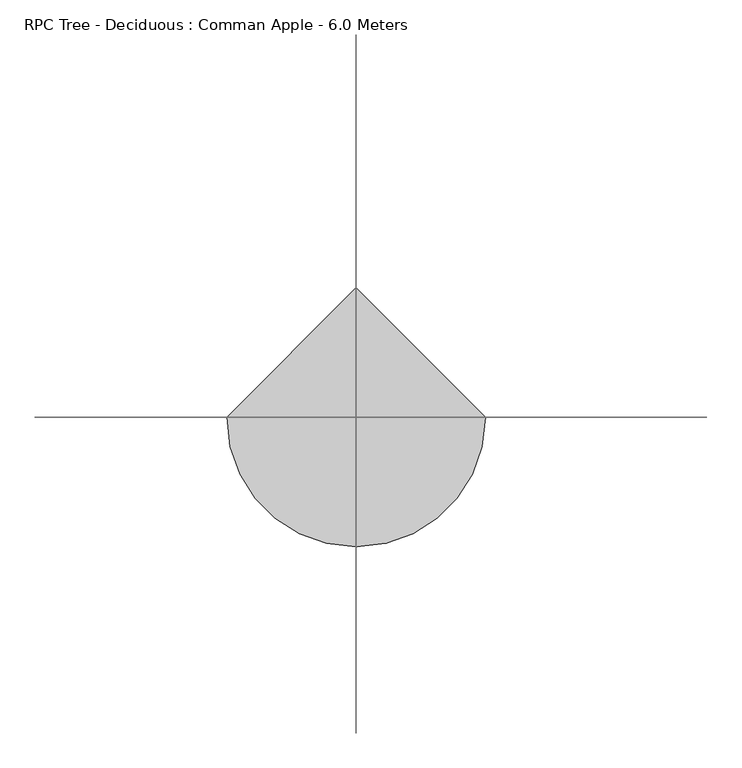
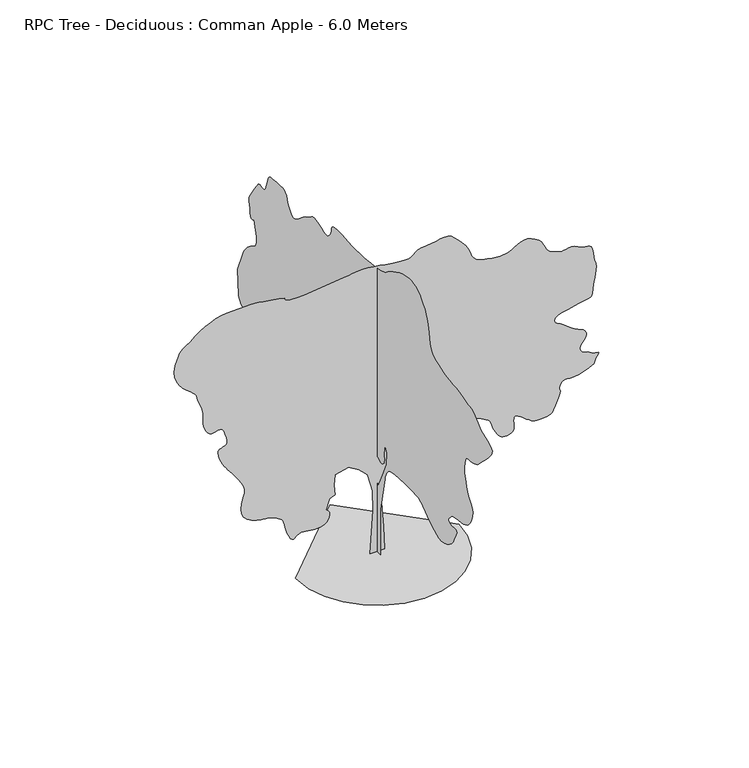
"""IFC4 building model written with IfcOpenShell, lengths in millimetres: geographic element geometry, RPC Tree - Deciduous : Comman Apple - 6.0 Meters."""

from ifc_helpers import new_model, si_unit, origin, place, context, project, spatial, triangles, source, transform, mapped, element, save


def rpc_tree_deciduous_comman_apple_6_0_meters_a7a636f8(model_context):
    return source(origin(), model_context, "Body", "Tessellation", [
        triangles([(-6.51e-05, -105.0228319, 0.0074776), (-6.15e-05, 138.9131143, 0.0074703), (-4.84e-05, 99.8833291, 458.6078719), (-3.14e-05, 129.1556067, 1014.7807915), (-1.8e-05, 226.7299288, 1414.8361691), (-8.5e-06, 392.6053236, 1649.0138809), (-1.1e-06, 577.9979682, 1805.1340027), (2.6e-06, 753.6305981, 1844.161417), (3.5e-06, 948.7807503, 1775.8613708), (1.5e-06, 1007.3257959, 1678.2863674), (-4e-06, 890.2357046, 1551.4387321), (-8.4e-06, 929.2657351, 1385.5635372), (-1.44e-05, 1153.685903, 1073.3258371), (-1.47e-05, 1543.9836639, 868.4182137), (-8.5e-06, 2109.9142365, 790.3606236), (7.6e-06, 2451.4244957, 1161.1408985), (2.53e-05, 2802.702182, 1580.7112186), (3.2e-05, 3349.1025513, 1531.9237896), (3.84e-05, 3544.2528488, 1649.0138809), (4.53e-05, 3534.5028625, 1883.1914474), (4.5e-05, 3358.8778267, 1961.2515083), (4.95e-05, 3232.0277206, 2175.9142776), (5.43e-05, 3534.5028625, 2185.6716763), (5.98e-05, 4139.453437, 2068.584201), (6.19e-05, 4208.0283211, 2104.1717091), (6.39e-05, 4273.9283684, 2140.0141434), (6.59e-05, 4334.553447, 2176.3691917), (6.78e-05, 4387.2284294, 2213.4942513), (6.96e-05, 4429.328476, 2251.6417774), (7.12e-05, 4458.2034576, 2291.0693127), (7.26e-05, 4471.2035362, 2332.0343994), (8.79e-05, 4500.4784935, 2829.6522812), (9.79e-05, 4334.6034439, 3249.2275429), (9.86e-05, 4317.5033249, 3282.3275574), (9.94e-05, 4292.2284142, 3321.5527794), (0.0001002, 4260.1033401, 3364.7027618), (0.000101, 4222.5283081, 3409.5526405), (0.0001017, 4180.8532356, 3453.9028404), (0.0001023, 4136.4533295, 3495.527916), (0.0001027, 4090.6782166, 3532.2027122), (0.0001029, 4046.5782921, 3560.9279938), (0.0001029, 4006.7531067, 3582.8278198), (0.000103, 3971.8782005, 3601.8278229), (0.0001031, 3942.6282417, 3621.8527634), (0.0001036, 3919.7031876, 3646.8529816), (0.0001043, 3903.7779968, 3680.7029503), (0.0001056, 3895.5282097, 3727.3530098), (0.0001072, 3894.4779831, 3782.2781456), (0.0001089, 3899.0529945, 3838.2279282), (0.0001108, 3908.3280098, 3895.0532387), (0.0001127, 3921.3530869, 3952.5282188), (0.0001147, 3937.2032822, 4010.528167), (0.0001167, 3954.9280724, 4068.8783844), (0.0001187, 3973.5780968, 4127.4033005), (0.0001184, 3998.5533165, 4107.2783661), (0.0001184, 4022.8532867, 4091.9531387), (0.0001185, 4045.7783409, 4086.1782005), (0.0001191, 4066.6532295, 4094.7532585), (0.0001202, 4084.8032845, 4122.4283134), (0.0001219, 4099.5532562, 4174.003363), (0.0001245, 4110.1781891, 4254.2534065), (0.000127, 4120.6784203, 4333.2285278), (0.0001287, 4132.0283089, 4385.4035408), (0.0001299, 4139.1281662, 4422.2036201), (0.0001309, 4136.8033081, 4455.0786484), (0.0001318, 4120.0031708, 4495.478508), (0.0001331, 4083.5533607, 4554.8286644), (0.0001348, 4022.3783157, 4644.5537109), (0.0001367, 3956.5782623, 4741.1289207), (0.0001382, 3906.9780922, 4815.003772), (0.0001392, 3869.5280525, 4868.5789902), (0.0001398, 3840.0781059, 4904.2041412), (0.0001401, 3814.5529198, 4924.3290756), (0.0001399, 3788.8780334, 4931.3042313), (0.0001393, 3758.9281174, 4927.5038818), (0.0001386, 3727.67799, 4918.0288788), (0.0001379, 3700.2029228, 4909.0788437), (0.0001374, 3675.45298, 4904.7291092), (0.0001372, 3652.4029335, 4909.0788437), (0.0001374, 3630.0528442, 4926.2289597), (0.000138, 3607.3527763, 4960.2792068), (0.0001393, 3583.2777924, 5015.3287537), (0.0001409, 3562.2279144, 5079.6288986), (0.0001424, 3546.3027237, 5137.7538391), (0.0001437, 3531.0527824, 5188.4042358), (0.0001447, 3512.0527794, 5230.1540131), (0.0001452, 3484.8526955, 5261.6794144), (0.0001452, 3445.0278008, 5281.604361), (0.0001446, 3388.1277855, 5288.5295197), (0.0001436, 3319.3276245, 5291.5793335), (0.0001428, 3248.6275795, 5298.5544891), (0.000142, 3178.9774704, 5306.2040222), (0.0001411, 3113.2274139, 5311.3042923), (0.0001402, 3054.3025223, 5310.5793365), (0.0001392, 3005.1273262, 5300.8293503), (0.000138, 2968.5772316, 5278.778952), (0.0001369, 2944.7272339, 5253.1543533), (0.0001361, 2929.602285, 5232.6294434), (0.0001354, 2919.9272942, 5214.0044174), (0.0001347, 2912.4774582, 5194.003894), (0.0001338, 2904.0023941, 5169.4042328), (0.0001326, 2891.2523003, 5136.9288895), (0.000131, 2871.0023735, 5093.3792221), (0.0001292, 2844.6522377, 5045.379245), (0.0001275, 2815.5772682, 5003.1539154), (0.000126, 2783.4271957, 4968.9542587), (0.0001248, 2747.8773308, 4945.0039764), (0.0001238, 2708.5521149, 4933.504097), (0.0001233, 2665.1521477, 4936.7039017), (0.0001232, 2617.3021614, 4956.7788391), (0.0001234, 2569.6771614, 4988.2542435), (0.0001238, 2525.4769524, 5023.3038483), (0.0001243, 2482.1194244, 5060.7288895), (0.0001247, 2437.0593842, 5099.3538574), (0.0001252, 2387.7318718, 5138.0038239), (0.0001254, 2331.5768692, 5175.4288651), (0.0001255, 2266.0343582, 5210.4790512), (0.0001256, 2205.0142456, 5244.5542969), (0.0001259, 2159.0142918, 5277.6040237), (0.0001262, 2120.3541515, 5306.2290207), (0.0001262, 2081.3542065, 5327.0044968), (0.0001258, 2034.3291698, 5336.5044983), (0.0001247, 1971.6040741, 5331.3292328), (0.0001227, 1885.4940685, 5308.0544907), (0.0001205, 1797.391452, 5276.8540695), (0.0001188, 1730.2863911, 5251.9544266), (0.0001175, 1678.8813892, 5236.1042313), (0.0001168, 1637.8888332, 5232.0288986), (0.0001166, 1602.0163136, 5242.4794235), (0.0001169, 1565.9737461, 5270.1544785), (0.0001177, 1524.4687214, 5317.8044769), (0.0001188, 1490.9861721, 5373.8045471), (0.0001201, 1475.2561729, 5423.9793915), (0.0001212, 1466.3511932, 5467.3296524), (0.0001221, 1453.3511147, 5502.8292297), (0.0001225, 1425.3286972, 5529.4543488), (0.0001222, 1371.366148, 5546.1794907), (0.000121, 1280.5334656, 5551.979718), (0.0001195, 1182.4759335, 5550.8792038), (0.0001183, 1108.9958982, 5547.8793869), (0.0001174, 1052.4133781, 5543.5296524), (0.0001165, 1005.0483187, 5538.3293884), (0.0001156, 959.220738, 5532.7791458), (0.0001147, 907.2482563, 5527.4044739), (0.0001136, 841.4482029, 5522.7041794), (0.0001125, 772.3506037, 5519.7043625), (0.0001115, 711.6155754, 5518.9044113), (0.0001107, 653.2705175, 5520.154335), (0.0001099, 591.3404677, 5523.2791443), (0.000109, 519.8504273, 5528.1294296), (0.0001078, 432.8303392, 5534.5046219), (0.0001065, 324.3052774, 5542.2291504), (0.000105, 203.687658, 5552.8796631), (0.0001037, 86.9965703, 5567.6043457), (0.0001026, -21.8426915, 5585.7544006), (0.0001018, -118.9050968, 5606.6292892), (0.0001012, -200.2644113, 5629.5546341), (0.0001011, -261.9952181, 5653.8543137), (0.0001012, -300.1702317, 5678.8295334), (0.0001016, -342.4727732, 5713.0297714), (0.000102, -413.9603428, 5761.2297363), (0.0001023, -506.7854181, 5817.0798157), (0.0001024, -613.0929554, 5874.3298096), (0.0001023, -725.0330704, 5926.6045258), (0.0001019, -834.75319, 5967.6299286), (0.0001011, -934.4057556, 5991.07966), (0.0001, -1022.9033335, 5999.8047089), (9.88e-05, -1104.7484104, 6000.0046967), (9.74e-05, -1180.4459702, 5990.3047073), (9.57e-05, -1250.5110249, 5969.3298248), (9.38e-05, -1315.4560432, 5935.7295502), (9.14e-05, -1375.7936394, 5888.1545471), (8.87e-05, -1432.0336658, 5825.2049011), (8.63e-05, -1478.7161362, 5768.8048553), (8.48e-05, -1512.7687088, 5733.7546692), (8.36e-05, -1538.2837212, 5707.9295013), (8.25e-05, -1559.3636845, 5679.2045105), (8.09e-05, -1580.1012268, 5635.454274), (7.84e-05, -1604.5962433, 5564.5545319), (7.46e-05, -1636.941362, 5454.4042786), (7.05e-05, -1667.1512913, 5330.3292938), (6.7e-05, -1688.656374, 5223.97939), (6.39e-05, -1710.6739254, 5132.8541382), (6.11e-05, -1742.4214062, 5054.3292801), (5.83e-05, -1793.1164223, 4985.8788071), (5.53e-05, -1871.9714928, 4924.9540375), (5.19e-05, -1988.2065491, 4868.9789658), (4.87e-05, -2119.0091755, 4825.5040031), (4.62e-05, -2237.6917568, 4799.6038399), (4.41e-05, -2347.6668755, 4784.9788605), (4.22e-05, -2452.3543808, 4775.3288681), (4.04e-05, -2555.1521759, 4764.2786705), (3.83e-05, -2659.5022018, 4745.5539413), (3.57e-05, -2768.8022163, 4712.8539024), (3.33e-05, -2866.4523605, 4683.5786545), (3.19e-05, -2939.5522591, 4672.2287659), (3.09e-05, -2996.927536, 4668.05373), (2.99e-05, -3047.4773575, 4660.2786232), (2.85e-05, -3100.0773445, 4638.1788094), (2.61e-05, -3163.6025368, 4590.9787834), (2.24e-05, -3246.9276833, 4507.9536186), (1.83e-05, -3354.9527756, 4422.0536293), (1.48e-05, -3474.4277504, 4364.503363), (1.18e-05, -3586.9278603, 4321.8033531), (9.3e-06, -3673.9780701, 4280.47855), (7e-06, -3717.153051, 4227.0283241), (5e-06, -3698.0280556, 4147.9782074), (2.9e-06, -3598.177755, 4029.8281517), (1.1e-06, -3473.4528099, 3906.2781349), (-3e-07, -3385.2276718, 3815.6781418), (-1.3e-06, -3323.4776619, 3751.5279877), (-1.9e-06, -3278.1025246, 3707.3530678), (-2.2e-06, -3239.0275841, 3676.6529068), (-2.3e-06, -3196.2275803, 3652.9528999), (-2.1e-06, -3139.5775497, 3629.777861), (-1.7e-06, -3075.1774109, 3613.37799), (-9e-07, -3016.2275208, 3608.6029907), (-2e-07, -2963.4272552, 3606.7278145), (2e-07, -2917.4774437, 3599.0529922), (2e-07, -2879.0021759, 3576.8528938), (-7e-07, -2848.7272797, 3531.452758), (-2.7e-06, -2827.3521309, 3454.1278267), (-5.1e-06, -2815.7522575, 3369.9277336), (-7e-06, -2813.3521133, 3305.0276253), (-8.6e-06, -2818.6523712, 3252.4026398), (-1.02e-05, -2830.0772552, 3205.052623), (-1.19e-05, -2846.1271477, 3156.0024193), (-1.39e-05, -2865.2274353, 3098.2524559), (-1.64e-05, -2885.9023361, 3024.8022881), (-1.92e-05, -2914.627327, 2946.6774055), (-2.18e-05, -2954.4522217, 2877.5772629), (-2.43e-05, -2998.5524368, 2814.6273262), (-2.67e-05, -3040.0775185, 2754.9021927), (-2.9e-05, -3072.2275909, 2695.5270378), (-3.11e-05, -3088.152491, 2633.6020386), (-3.3e-05, -3081.052343, 2566.2020828), (-3.46e-05, -3060.4274391, 2500.277037), (-3.6e-05, -3039.1022873, 2443.7194427), (-3.71e-05, -3015.2522896, 2395.18694), (-3.79e-05, -2986.9272743, 2353.3118797), (-3.85e-05, -2952.3273514, 2316.7293743), (-3.88e-05, -2909.5023491, 2284.0717747), (-3.89e-05, -2856.6273788, 2253.9743385), (-3.87e-05, -2791.7272705, 2230.5618141), (-3.8e-05, -2717.452153, 2216.0268002), (-3.71e-05, -2638.7520149, 2206.0967377), (-3.62e-05, -2560.5271385, 2196.5117123), (-3.56e-05, -2487.799601, 2182.9993103), (-3.53e-05, -2425.47201, 2161.2942398), (-3.56e-05, -2378.5043827, 2127.129174), (-3.62e-05, -2345.7043499, 2089.8041267), (-3.68e-05, -2322.8042942, 2060.3341232), (-3.73e-05, -2310.1443111, 2037.0066227), (-3.78e-05, -2308.0692924, 2018.1191128), (-3.84e-05, -2316.9168629, 2001.9616688), (-3.92e-05, -2337.029298, 1986.8265461), (-4.01e-05, -2368.7468388, 1971.0090523), (-4.1e-05, -2411.2468609, 1962.5040482), (-4.16e-05, -2459.0394379, 1965.0915356), (-4.21e-05, -2505.4770103, 1970.754126), (-4.27e-05, -2543.876992, 1971.4641117), (-4.34e-05, -2567.6019974, 1959.2041042), (-4.44e-05, -2569.9771431, 1925.949012), (-4.59e-05, -2544.3769615, 1863.6765049), (-4.75e-05, -2509.7520401, 1792.5014889), (-4.89e-05, -2484.8695473, 1735.1513557), (-4.99e-05, -2462.7095627, 1687.5312973), (-5.08e-05, -2436.2819607, 1645.5437439), (-5.14e-05, -2398.5893486, 1605.0912712), (-5.19e-05, -2342.631863, 1562.0787804), (-5.22e-05, -2261.4142914, 1512.4087017), (-5.2e-05, -2169.1316975, 1473.3237328), (-5.1e-05, -2083.5066914, 1461.3762062), (-4.95e-05, -2002.8290577, 1471.4462311), (-4.76e-05, -1925.3965748, 1498.4137711), (-4.53e-05, -1849.4990273, 1537.1587898), (-4.28e-05, -1773.4289612, 1582.5612511), (-4.02e-05, -1695.4838642, 1629.498793), (-3.77e-05, -1622.0062271, 1676.8063705), (-3.54e-05, -1558.0836754, 1724.7963192), (-3.31e-05, -1500.136195, 1770.5689613), (-3.11e-05, -1444.578685, 1811.2214218), (-2.93e-05, -1387.8260445, 1843.8489361), (-2.77e-05, -1326.2960793, 1865.5564774), (-2.64e-05, -1256.4010723, 1873.4340488), (-2.5e-05, -1159.1384045, 1874.2889385), (-2.3e-05, -1027.910804, 1875.4840691), (-2.07e-05, -877.7382116, 1874.971455), (-1.86e-05, -723.6380974, 1870.7039829), (-1.67e-05, -580.6329818, 1860.6339581), (-1.55e-05, -463.7428782, 1842.7115055), (-1.52e-05, -387.9878002, 1814.8914013), (-1.57e-05, -343.2127716, 1776.8839828), (-1.66e-05, -308.1652379, 1730.6863667), (-1.77e-05, -281.2252217, 1677.6614056), (-1.92e-05, -260.7727092, 1619.1738419), (-2.08e-05, -245.1829449, 1556.5887085), (-2.26e-05, -232.8366782, 1491.2736546), (-2.44e-05, -222.1121693, 1424.5935677), (-3.85e-05, -114.7803395, 897.6907001), (-2.01e-05, -26.9632706, 1297.7460777), (-1.3e-05, -173.3248856, 1609.9838505), (-6.5e-06, -300.1727388, 1892.9489914), (2e-07, -319.6852469, 2127.129174), (4.7e-06, -251.3852008, 2244.2167946), (-4e-07, -222.1119331, 2058.8266571), (-1.7e-06, -228.0859325, 2017.1790539), (-3e-06, -232.2679447, 1976.5565334), (-4.1e-06, -232.865183, 1937.9815624), (-5.1e-06, -228.0859325, 1902.4790783), (-5.9e-06, -216.1379155, 1871.0740185), (-6.4e-06, -195.2293988, 1844.788995), (-6.5e-06, -163.5673779, 1824.6489452), (-6.1e-06, -127.1833524, 1819.4714996), (-5.2e-06, -93.5303284, 1831.0189053), (-4.2e-06, -62.949051, 1849.7389835), (-3.3e-06, -35.7820297, 1866.0664753), (-2.9e-06, -12.3698845, 1870.4490566), (-3.1e-06, 6.9458055, 1853.3239391), (-4.3e-06, 21.8237678, 1805.1340027), (-6.1e-06, 32.3777748, 1741.0688725), (-7.7e-06, 39.3472803, 1682.1263947), (-9.3e-06, 43.330036, 1627.4512436), (-1.08e-05, 44.9230347, 1576.1888203), (-1.22e-05, 44.724037, 1527.4862698), (-1.37e-05, 43.330036, 1480.4911732), (-1.51e-05, 41.3385332, 1434.3511116), (137.391859, 0.0003253, 0.0), (-133.3141101, 0.0003334, 0.0), (-73.1573078, 0.0002372, 832.1731876), (-83.1833128, 0.0002433, 1223.1935062), (-183.4456522, 0.0001982, 1574.1087147), (-333.8377625, 0.0002049, 1724.5014244), (-534.3604428, 0.0002126, 1844.8164642), (-785.015601, 0.0002192, 1784.6589443), (-805.0681561, 0.0002168, 1584.1363003), (-785.015601, 0.0002134, 1393.6386257), (-885.278231, 0.0002156, 1343.5060753), (-955.4607931, 0.0002149, 1153.0084007), (-936.3432827, 0.0002675, 1139.8859459), (-918.5407356, 0.0002668, 1125.3558735), (-903.3707314, 0.0002661, 1108.0233559), (-892.1456898, 0.0002654, 1086.4808481), (-886.1831903, 0.0002648, 1059.3258196), (-886.7981964, 0.0002643, 1025.1533415), (-895.3032005, 0.0002639, 982.565752), (-913.9532249, 0.0002639, 940.0632591), (-942.5982788, 0.0002642, 906.5057144), (-978.963283, 0.0002649, 881.0181713), (-1020.7633478, 0.0002659, 862.7181982), (-1065.71838, 0.0002671, 850.7331739), (-1111.553373, 0.0002683, 844.1856812), (-1155.9834372, 0.0002696, 842.1981571), (-1199.4784567, 0.000271, 844.8881819), (-1243.6759769, 0.0002724, 851.4356747), (-1288.0485592, 0.0002738, 859.5631582), (-1332.0685467, 0.0002752, 866.9856703), (-1375.2135876, 0.0002766, 871.4282043), (-1416.9560978, 0.0002778, 870.610667), (-1456.7686386, 0.0002789, 862.2507122), (-1490.9986713, 0.0002796, 844.3906832), (-1518.2137253, 0.0002801, 821.2681847), (-1541.2187164, 0.0002805, 799.9006662), (-1562.8187061, 0.0002809, 787.3031067), (-1585.8236973, 0.0002817, 790.4881594), (-1613.0387512, 0.0002829, 816.475672), (-1647.2663132, 0.0002313, 872.2782251), (-1679.7413658, 0.0002334, 944.3882858), (-1702.0463997, 0.0002351, 1013.3457773), (-1717.508828, 0.0002365, 1077.2133905), (-1729.4639122, 0.0002377, 1134.0684231), (-1741.2438618, 0.0002387, 1181.9784348), (-1756.1814674, 0.0002397, 1219.0134562), (-1777.6064678, 0.0002407, 1243.2460613), (-1804.2939377, 0.0002418, 1262.5659576), (-1833.963929, 0.000243, 1284.8709915), (-1868.368951, 0.0002444, 1308.2261066), (-1909.2639839, 0.000246, 1330.7035137), (-1958.3990662, 0.0002477, 1350.3761501), (-2017.5341194, 0.0002497, 1365.3136105), (-2088.4191822, 0.0002519, 1373.5860706), (-2170.7616852, 0.0002011, 1382.5010788), (-2258.5417923, 0.000204, 1401.9385551), (-2344.9193687, 0.0002071, 1433.8310852), (-2423.054425, 0.0002101, 1480.1036968), (-2486.1043556, 0.0002129, 1542.6862141), (-2527.2271362, 0.0002153, 1623.5087517), (-2539.6019623, 0.0002172, 1724.5014244), (-2528.5270569, 0.0002183, 1822.2489464), (-2508.6771057, 0.0002189, 1897.5490013), (-2487.2420769, 0.0002192, 1958.6416386), (-2471.4293793, 0.0001661, 2013.7690876), (-2468.4170631, 0.0001669, 2071.1791008), (-2485.3994568, 0.0001684, 2139.1117275), (-2529.5769928, 0.000171, 2225.8093426), (-2588.3771828, 0.0001741, 2318.6767845), (-2644.0269836, 0.000177, 2400.3194756), (-2695.8270195, 0.0001796, 2471.7869156), (-2743.0773331, 0.000182, 2534.1270058), (-2785.0520966, 0.0001306, 2588.4271797), (-2821.0522247, 0.0001324, 2635.6772026), (-2850.4021774, 0.0001339, 2676.9770073), (-2878.5522034, 0.0001354, 2723.8270546), (-2908.6274025, 0.0001372, 2782.7522369), (-2936.4274498, 0.000139, 2847.4523575), (-2957.7523109, 0.0001406, 2911.6522179), (-2968.3522453, 0.0001418, 2969.0024963), (-2964.0525078, 0.0001423, 3013.2024147), (-2940.6524826, 0.000142, 3037.927359), (-2905.0023331, 0.0001411, 3050.052491), (-2869.2021927, 0.0001402, 3062.5523094), (-2836.72714, 0.0001395, 3078.1775185), (-2811.1022507, 0.000139, 3099.7773628), (-2795.8023125, 0.000139, 3130.1525436), (-2794.3771088, 0.0001396, 3172.1025993), (-2810.3022995, 0.0001409, 3228.4276497), (-2831.7271545, 8.9e-05, 3286.3526024), (-2846.6774048, 9.02e-05, 3332.2027107), (-2858.4522675, 9.1e-05, 3367.3276016), (-2870.4024101, 9.18e-05, 3393.1777679), (-2885.8523392, 9.25e-05, 3411.1278351), (-2908.17743, 9.33e-05, 3422.5777176), (-2940.6524826, 9.44e-05, 3428.9526192), (-2978.7524826, 9.55e-05, 3427.0527351), (-3016.0025345, 9.65e-05, 3417.4277412), (-3052.7023293, 9.74e-05, 3407.1277885), (-3089.2524239, 9.85e-05, 3403.1027435), (-3125.9775078, 9.97e-05, 3412.4277557), (-3163.2025612, 0.0001012, 3442.1026886), (-3201.3275597, 0.0001032, 3499.1276962), (-3229.5025841, 0.0001051, 3569.6277534), (-3241.3777313, 0.0001065, 3637.1529922), (-3243.9525742, 0.0001076, 3704.8529297), (-3244.2275574, 0.0001086, 3775.9029533), (-3249.2525414, 5.65e-05, 3853.4031647), (-3266.0276802, 5.83e-05, 3940.5780762), (-3301.5775452, 6.09e-05, 4040.5533691), (-3337.877655, 6.33e-05, 4130.928376), (-3357.5276184, 6.48e-05, 4192.7283829), (-3368.4028267, 6.58e-05, 4234.1784691), (-3378.4027977, 6.65e-05, 4263.5284218), (-3395.4276306, 6.74e-05, 4289.0033203), (-3427.3277184, 6.88e-05, 4318.8785316), (-3482.0528664, 7.1e-05, 4361.3785538), (-3552.8529053, 2.06e-05, 4417.8785934), (-3623.6529442, 2.37e-05, 4484.3786041), (-3688.3030678, 2.68e-05, 4561.0535751), (-3740.6780685, 2.96e-05, 4648.0787865), (-3774.6530296, 3.21e-05, 4745.6289368), (-3784.0780357, 3.4e-05, 4853.8540169), (-3762.7778824, 3.51e-05, 4972.9790131), (-3729.8778557, -1.77e-05, 5076.7040771), (-3704.502951, -1.74e-05, 5145.8539261), (-3680.7029503, -1.74e-05, 5191.3290573), (-3652.5279259, -1.78e-05, 5224.0043884), (-3614.0029518, -1.85e-05, 5254.7792542), (-3559.1778099, -1.95e-05, 5294.454158), (-3482.0528664, -2.09e-05, 5353.9790131), (-3391.1775993, -2.26e-05, 5424.8793365), (-3298.9027084, -2.44e-05, 5490.3794083), (-3205.0276245, -2.63e-05, 5548.6543396), (-3109.4273552, -2.84e-05, 5598.0042343), (-3011.8774956, -3.07e-05, 5636.6297836), (-2912.2274734, -3.33e-05, 5662.8293472), (-2810.3022995, -3.62e-05, 5674.8047791), (-2339.0719059, -5.01e-05, 5684.8297485), (-2273.3618179, -5.21e-05, 5682.2043274), (-2197.6542297, -5.44e-05, 5674.854776), (-2113.614156, -3.7e-06, 5663.5293045), (-2022.9115528, -6.6e-06, 5649.0546066), (-1927.2115803, -9.7e-06, 5632.2294708), (-1828.1764915, -1.3e-05, 5613.8044327), (-1727.4763882, -1.63e-05, 5594.6044418), (-1724.3188774, -1.66e-05, 5575.4544479), (-1715.1112999, -1.72e-05, 5557.4543839), (-1693.8014088, -1.8e-05, 5541.7291809), (-1654.3413174, -1.94e-05, 5529.4293503), (-1590.6763081, -2.14e-05, 5521.6792419), (-1496.7561687, -2.42e-05, 5519.6293671), (-1366.5335941, -2.81e-05, 5524.4296555), (-604.5454757, -4.94e-05, 5614.6543808), (-529.8304141, -5.15e-05, 5621.554541), (-464.7628741, 1e-07, 5631.7794983), (-403.0278342, -1.6e-06, 5642.554422), (-338.3102729, -3.4e-06, 5651.0294861), (-264.297712, -5.6e-06, 5654.4042801), (-174.6758932, -8.3e-06, 5649.9045547), (-63.1312982, -1.19e-05, 5634.7043198), (53.8502923, -1.57e-05, 5614.4793915), (156.9766284, -1.9e-05, 5596.879303), (248.3524462, -2.19e-05, 5582.1046234), (330.0827591, -2.45e-05, 5570.2791824), (404.2703093, -2.69e-05, 5561.6297104), (473.0203643, -2.9e-05, 5556.304454), (538.4379192, -3.1e-05, 5554.5045639), (593.7429737, -3.25e-05, 5562.8296371), (635.895488, -3.35e-05, 5584.3044891), (672.6080727, -3.41e-05, 5613.6794403), (711.6030762, -3.48e-05, 5645.7042297), (760.5931091, -3.58e-05, 5675.0797623), (827.2981945, -3.75e-05, 5696.5546143), (919.4332684, -4.01e-05, 5704.904686), (1019.3733164, -4.3e-05, 5711.6048584), (1106.3358862, -4.54e-05, 5726.7545151), (1183.3009558, -4.74e-05, 5742.7796997), (1253.2485031, -4.94e-05, 5752.1297104), (1319.1659912, -5.14e-05, 5747.279425), (1384.0286018, -5.37e-05, 5720.6793045), (1450.8211819, -3.2e-06, 5664.7798096), (1514.7787605, -6.1e-06, 5597.4042709), (1569.6162563, -8.6e-06, 5539.5043167), (1616.0337719, -1.07e-05, 5488.254538), (1654.7363514, -1.26e-05, 5440.8795227), (1686.421336, -1.42e-05, 5394.5544434), (1711.7939152, -1.57e-05, 5346.4544724), (1731.5539009, -1.7e-05, 5293.8291962), (1749.3263626, -1.84e-05, 5241.0039322), (1770.606459, -1.97e-05, 5194.1538849), (1798.9013889, -2.12e-05, 5153.0790665), (1837.7189323, 3.06e-05, 5117.6039063), (1890.5690495, 2.85e-05, 5087.6039932), (1960.9566135, 2.61e-05, 5062.8287613), (2052.3915848, 2.3e-05, 5043.1537994), (2147.2741653, 2e-05, 5028.9540848), (2227.0742363, 1.75e-05, 5020.3540283), (2293.8969017, 1.55e-05, 5016.8542419), (2349.8443588, 1.38e-05, 5017.9041779), (2397.0244732, 1.25e-05, 5023.0038666), (2437.5369713, 1.14e-05, 5031.5789246), (2473.4920441, 1.05e-05, 5043.1537994), (2512.0269012, 9.7e-06, 5063.479303), (2558.2519867, 8.7e-06, 5093.9791855), (2611.3522339, 7.6e-06, 5127.6038773), (2670.3771194, 6.3e-06, 5157.4043839), (2734.5272736, 4.7e-06, 5176.304393), (2802.8521729, 2.7e-06, 5177.3293304), (2874.5271584, 2e-07, 5153.4540436), (2937.3023964, -2.2e-06, 5120.2293274), (2982.5272522, -3.9e-06, 5095.0541199), (3014.7523201, -5.2e-06, 5073.7292587), (3038.5773193, -6.2e-06, 5052.0788361), (3058.5525536, -7.2e-06, 5025.854274), (3079.2024559, -8.3e-06, 4990.8790833), (3105.1276176, -9.8e-06, 4942.9041046), (3132.7273865, 4.2e-05, 4892.8036743), (3157.7026062, 4.07e-05, 4852.7037964), (3183.5274834, 3.94e-05, 4820.3037392), (3213.7526733, 3.81e-05, 4793.3539307), (3251.8776718, 3.66e-05, 4769.5539299), (3301.4025558, 3.48e-05, 4746.6538742), (3365.8276932, 3.25e-05, 4722.3289055), (3431.1277771, 3.03e-05, 4707.5036476), (3484.3277275, 2.88e-05, 4709.3538254), (3530.502816, 2.76e-05, 4719.9537598), (3574.7527313, 2.64e-05, 4731.4539299), (3622.1780342, 2.51e-05, 4735.9286568), (3677.8278351, 2.33e-05, 4725.4787132), (3746.8029854, 2.07e-05, 4692.2537064), (3818.1279922, 1.81e-05, 4658.4537346), (3877.8781242, 1.61e-05, 4644.1287369), (3926.7530479, 1.45e-05, 4638.053817), (3965.453302, 1.32e-05, 4629.003788), (3994.7032608, 1.2e-05, 4605.7287552), (4015.1531754, 6.41e-05, 4557.0285301), (4027.5532906, 6.24e-05, 4471.6785072), (4039.2031609, 6.08e-05, 4384.4785973), (4054.5533867, 5.95e-05, 4327.8035683), (4069.9033218, 5.84e-05, 4286.7284592), (4081.5781906, 5.75e-05, 4246.3533073), (4085.8532204, 5.65e-05, 4191.7784409), (4079.1033417, 5.55e-05, 4108.1033157), (4057.628199, 5.42e-05, 3980.3782631), (4035.5280945, 0.0001063, 3847.1779633), (4024.4781876, 0.0001052, 3752.0279572), (4017.103347, 0.0001045, 3687.5778214), (4006.0531494, 0.0001042, 3646.453006), (3983.9530449, 0.0001045, 3621.2777985), (3943.4531914, 0.0001054, 3604.7279366), (3877.1531685, 0.0001072, 3589.3780014), (3783.9280449, 0.0001097, 3571.4279343), (3675.2779907, 0.0001126, 3551.3777046), (3562.7778809, 0.0001156, 3528.3279488), (3457.9778824, 0.0001183, 3501.452845), (3372.477578, 0.0001204, 3469.8277405), (3317.8527145, 0.0001215, 3432.5776886), (3305.6525871, 0.0001212, 3388.8527412), (3318.4276794, 0.0001203, 3351.9776665), (3332.9526649, 0.0001195, 3330.9027901), (3352.2276512, 0.0001188, 3318.0777008), (3379.2027489, 0.0001178, 3305.9525688), (3416.8777748, 0.0001164, 3286.9775642), (3468.2528366, 0.0001143, 3253.627565), (3536.2527557, 0.0001115, 3198.3524506), (3611.5028137, 0.0001084, 3139.7525391), (3681.477903, 0.0001057, 3097.8024834), (3744.6281181, 0.0001033, 3067.0773239), (3799.3529755, 0.0001547, 3042.1273933), (3844.053154, 0.000153, 3017.5524399), (3877.2031654, 0.0001516, 2987.877507), (3897.2031075, 0.0001504, 2947.702343), (3897.9280632, 0.0001497, 2900.4773186), (3879.7280113, 0.0001495, 2853.6272713), (3850.6530418, 0.0001497, 2807.4771812), (3818.7529541, 0.00015, 2762.3773178), (3792.1281258, 0.0001501, 2718.6770782), (3778.8280655, 0.0001499, 2676.7270226), (3786.9281525, 0.0001491, 2636.8771294), (3809.6279297, 0.0001479, 2605.4770111), (3834.8031372, 0.0001469, 2585.8520462), (3862.4281952, 0.0001459, 2573.7522034), (3892.5031036, 0.0001448, 2564.9771576), (3925.0281532, 0.0001437, 2555.3271652), (3960.0280518, 0.0001425, 2540.6019012), (3997.4780914, 0.000141, 2516.5769142), (4036.1783455, 0.0001395, 2494.674472), (4072.603157, 0.0001383, 2485.0593613), (4103.2283226, 0.0001373, 2481.5793411), (4124.5531837, 0.0001366, 2478.1019371), (4133.1032433, 0.0001362, 2468.4845009), (4125.3284271, 0.0001895, 2446.5919418), (4097.7283676, 0.0001897, 2406.2819023), (4070.2033035, 0.0001899, 2361.9969601), (4057.9281807, 0.0001898, 2329.461882), (4050.3783508, 0.0001896, 2304.4693668), (4037.0532921, 0.0001897, 2282.8093517), (4007.403067, 0.0001903, 2260.2742447), (3950.9280258, 0.0001915, 2232.649332), (3857.1032295, 0.0001938, 2195.731818), (3751.1030136, 0.0001965, 2165.9741867), (3663.5278358, 0.000199, 2156.5616798), (3591.9278458, 0.0002011, 2158.3742146), (3533.8029053, 0.0002029, 2162.291708), (3486.7528702, 0.0002043, 2159.1942226), (3448.2778931, 0.0002051, 2139.9592049), (3415.9528313, 0.0002054, 2095.4691879), (3396.9028313, 0.0002053, 2048.9641777), (3394.8526657, 0.000205, 2022.9766651), (3402.2777939, 0.0002045, 2007.3391022), (3411.6278046, 0.000204, 1991.8765285), (3415.3778664, 0.0002035, 1966.4166), (3405.9528603, 0.0002031, 1920.7865364), (3375.8526627, 0.0002029, 1844.8164642), (3339.8025375, 0.0002027, 1759.2289558), (3313.4026955, 0.0002024, 1690.476321), (3290.3526489, 0.0002023, 1636.9838013), (3264.3024948, 0.0002025, 1597.1712605), (3228.9526176, 0.0002032, 1569.4613239), (3178.0025299, 0.0002044, 1552.2737103), (3105.1276176, 0.0002065, 1544.0311901), (3032.1274223, 0.0002086, 1540.6111954), (2980.1523972, 0.0002101, 1539.996262), (2942.0273987, 0.0002113, 1543.7687061), (2910.5772835, 0.0002124, 1553.5012516), (2878.6022003, 0.0002136, 1570.7762146), (2838.902298, 0.0002152, 1597.1712605), (2784.3021423, 0.0002174, 1634.2663799), (2725.2272598, 0.0002198, 1675.6263554), (2676.327047, 0.0002218, 1712.2539162), (2636.7271385, 0.0002234, 1741.8638821), (2605.5270081, 0.0002246, 1762.1813919), (2581.8769981, 0.0002254, 1770.9214108), (2564.9021622, 0.0002259, 1765.8038452), (2553.7019737, 0.0002259, 1744.5538342), (2547.3770691, 0.0002257, 1717.2514309), (2544.9269279, 0.0002254, 1694.3364052), (2545.2769066, 0.0002251, 1674.0488354), (2547.3770691, 0.0002247, 1654.6388283), (2550.2018967, 0.0002244, 1634.3538746), (2552.6520378, 0.0002239, 1611.4362328), (2553.7019737, 0.0002235, 1584.1363003), (2552.2770607, 0.0002231, 1554.2312943), (2547.1520828, 0.0002228, 1525.3811657), (2537.1271133, 0.0002227, 1498.6361412), (2520.9519379, 0.0002229, 1475.0461567), (2497.4295364, 0.0002233, 1455.666235), (2465.3044624, 0.000224, 1441.5461666), (2423.3594936, 0.0002251, 1433.7435905), (2380.6244568, 0.0002264, 1432.0761051), (2345.4293667, 0.0002275, 1436.3736626), (2315.4968914, 0.0002286, 1447.6861988), (2288.5467922, 0.0002297, 1467.0661205), (2262.2967957, 0.0002309, 1495.5661251), (2234.4692791, 0.0002323, 1534.2387646), (2202.7842945, 0.000234, 1584.1363003), (2173.4642818, 0.0002356, 1638.6213467), (2152.3892601, 0.0001837, 1689.7763638), (2136.7516972, 0.0001848, 1736.7213181), (2123.7442062, 0.0001858, 1778.5789375), (2110.561726, 0.0001868, 1814.4739849), (2094.3967243, 0.0001877, 1843.5290428), (2072.4441399, 0.0001886, 1864.8690193), (2041.9866966, 0.0001898, 1883.516573), (2003.1091278, 0.0001913, 1904.796524), (1957.2165802, 0.000193, 1928.2690739), (1905.7115845, 0.0001949, 1953.4966038), (1849.996526, 0.000197, 1980.0365536), (1791.4764061, 0.0001991, 2007.4565369), (1731.5539009, 0.0002013, 2035.3141388), (1390.663662, 0.0002115, 2035.3141388), (1200.1659874, 0.0002139, 1814.7364689), (1195.6959841, 0.0002136, 1784.6589443), (1190.1709579, 0.0002133, 1754.578949), (1182.5409731, 0.0002131, 1724.5014244), (1171.7559483, 0.0002129, 1694.4238998), (1156.7583899, 0.0002129, 1664.3437592), (1136.5033762, 0.0002131, 1634.2663799), (1109.9308702, 0.0002134, 1604.1888554), (1086.2834038, 0.0002138, 1578.7562508), (1071.7558748, 0.0002139, 1561.5687824), (1060.7358353, 0.0002141, 1551.0461689), (1047.610837, 0.0002144, 1545.6087101), (1026.7682865, 0.000215, 1543.6787407), (992.5982792, 0.000216, 1543.6787407), (939.4857508, 0.0002176, 1544.0311901), (873.0156801, 0.0002196, 1546.8661915), (804.2656614, 0.0002218, 1554.4362236), (735.8656214, 0.000224, 1565.3387558), (670.4455593, 0.0002262, 1578.1712574), (610.6404888, 0.0002281, 1591.5313431), (559.0754313, 0.0002299, 1604.0112499), (518.3879076, 0.0002312, 1614.2138248), (483.4279049, 0.0002324, 1624.5613037), (447.4153502, 0.0002337, 1638.0662933), (410.5253417, 0.000235, 1654.201355), (372.9353033, 0.0002364, 1672.4413754), (334.8177535, 0.0001845, 1692.2589157), (296.3502432, 0.0001859, 1713.1313335), (257.7052002, 0.0001874, 1734.5288647), (77.2350658, 0.0002405, 1353.5335155), (67.2090517, 0.0002365, 1062.7733562), (117.3398399, 0.0002792, 451.1778749), (-1522.7162121, 1.1e-06, 0.0098235), (-1482.4612564, -348.9052657, 0.0098339), (-1367.8136032, -669.3205553, 0.0098435), (-1187.9534334, -952.0632534, 0.0098519), (-952.0632534, -1187.9534334, 0.0098589), (-669.3205553, -1367.8136032, 0.0098643), (-348.9052657, -1482.4612564, 0.0098677), (6.66e-05, -1522.7162121, 0.0098689), (348.9052657, -1482.4612564, 0.0098677), (669.3205553, -1367.8136032, 0.0098643), (952.0632534, -1187.9534334, 0.0098589), (1187.9534334, -952.0632534, 0.0098519), (1367.8136032, -669.3205553, 0.0098435), (1482.4612564, -348.9052657, 0.0098339), (1522.7162121, 0.0001238, 0.0098235), (-0.0001997, 1522.7162121, 0.0097782)], [[300, 1, 301], [299, 300, 301], [299, 301, 302], [298, 299, 302], [297, 298, 302], [296, 297, 302], [296, 302, 303], [295, 296, 303], [294, 295, 303], [293, 294, 303], [292, 293, 303], [1, 2, 3], [301, 1, 3], [301, 3, 4], [301, 4, 5], [327, 301, 5], [326, 327, 5], [326, 5, 6], [325, 326, 6], [324, 325, 6], [323, 324, 6], [322, 323, 6], [321, 322, 6], [320, 321, 6], [19, 20, 21], [18, 19, 21], [17, 18, 21], [17, 21, 22], [320, 6, 7], [319, 320, 7], [291, 292, 303], [291, 303, 304], [290, 291, 304], [261, 262, 263], [260, 261, 263], [260, 263, 264], [259, 260, 264], [259, 264, 265], [258, 259, 265], [10, 11, 12], [14, 15, 16], [258, 265, 266], [257, 258, 266], [205, 206, 207], [204, 205, 207], [204, 207, 208], [203, 204, 208], [203, 208, 209], [202, 203, 209], [202, 209, 210], [257, 266, 267], [10, 12, 13], [257, 267, 268], [257, 268, 269], [256, 257, 269], [256, 269, 270], [256, 270, 271], [255, 256, 271], [255, 271, 272], [255, 272, 273], [255, 273, 274], [255, 274, 275], [255, 275, 276], [255, 276, 277], [254, 255, 277], [254, 277, 278], [254, 278, 279], [254, 279, 280], [253, 254, 280], [253, 280, 281], [253, 281, 282], [289, 290, 304], [10, 13, 14], [10, 14, 16], [10, 16, 17], [10, 17, 22], [9, 10, 22], [201, 202, 210], [201, 210, 211], [201, 211, 212], [201, 212, 213], [201, 213, 214], [201, 214, 215], [201, 215, 216], [201, 216, 217], [201, 217, 218], [201, 218, 219], [200, 201, 219], [199, 200, 219], [198, 199, 219], [197, 198, 219], [196, 197, 219], [195, 196, 219], [194, 195, 219], [194, 219, 220], [193, 194, 220], [192, 193, 220], [191, 192, 220], [190, 191, 220], [189, 190, 220], [189, 220, 221], [188, 189, 221], [252, 253, 282], [252, 282, 283], [188, 221, 222], [187, 188, 222], [251, 252, 283], [187, 222, 223], [23, 24, 25], [318, 319, 7], [56, 57, 58], [56, 58, 59], [55, 56, 59], [55, 59, 60], [54, 55, 60], [54, 60, 61], [54, 61, 62], [23, 25, 26], [186, 187, 223], [23, 26, 27], [23, 27, 28], [23, 28, 29], [23, 29, 30], [23, 30, 31], [23, 31, 32], [23, 32, 33], [23, 33, 34], [23, 34, 35], [23, 35, 36], [23, 36, 37], [23, 37, 38], [23, 38, 39], [23, 39, 40], [23, 40, 41], [23, 41, 42], [23, 42, 43], [23, 43, 44], [22, 23, 44], [22, 44, 45], [9, 22, 45], [9, 45, 46], [9, 46, 47], [9, 47, 48], [8, 9, 48], [8, 48, 49], [8, 49, 50], [8, 50, 51], [8, 51, 52], [8, 52, 53], [8, 53, 54], [250, 251, 283], [250, 283, 284], [288, 289, 304], [288, 304, 305], [186, 223, 224], [287, 288, 305], [313, 314, 315], [312, 313, 315], [311, 312, 315], [310, 311, 315], [310, 315, 316], [309, 310, 316], [308, 309, 316], [308, 316, 317], [307, 308, 317], [306, 307, 317], [306, 317, 318], [305, 306, 318], [305, 318, 7], [305, 7, 8], [305, 8, 54], [305, 54, 62], [305, 62, 63], [305, 63, 64], [305, 64, 65], [305, 65, 66], [305, 66, 67], [305, 67, 68], [305, 68, 69], [305, 69, 70], [305, 70, 71], [305, 71, 72], [305, 72, 73], [305, 73, 74], [305, 74, 75], [305, 75, 76], [305, 76, 77], [305, 77, 78], [305, 78, 79], [305, 79, 80], [305, 80, 81], [305, 81, 82], [305, 82, 83], [305, 83, 84], [305, 84, 85], [305, 85, 86], [305, 86, 87], [305, 87, 88], [305, 88, 89], [305, 89, 90], [305, 90, 91], [305, 91, 92], [134, 135, 136], [134, 136, 137], [133, 134, 137], [133, 137, 138], [132, 133, 138], [132, 138, 139], [132, 139, 140], [131, 132, 140], [131, 140, 141], [131, 141, 142], [131, 142, 143], [130, 131, 143], [130, 143, 144], [130, 144, 145], [286, 287, 305], [186, 224, 225], [185, 186, 225], [249, 250, 284], [130, 145, 146], [285, 286, 305], [249, 284, 285], [249, 285, 305], [248, 249, 305], [234, 235, 236], [233, 234, 236], [233, 236, 237], [232, 233, 237], [232, 237, 238], [232, 238, 239], [232, 239, 240], [232, 240, 241], [232, 241, 242], [232, 242, 243], [232, 243, 244], [232, 244, 245], [231, 232, 245], [231, 245, 246], [231, 246, 247], [230, 231, 247], [230, 247, 248], [230, 248, 305], [229, 230, 305], [228, 229, 305], [227, 228, 305], [226, 227, 305], [225, 226, 305], [185, 225, 305], [184, 185, 305], [183, 184, 305], [182, 183, 305], [181, 182, 305], [180, 181, 305], [179, 180, 305], [178, 179, 305], [177, 178, 305], [176, 177, 305], [175, 176, 305], [174, 175, 305], [173, 174, 305], [172, 173, 305], [171, 172, 305], [170, 171, 305], [169, 170, 305], [168, 169, 305], [167, 168, 305], [166, 167, 305], [165, 166, 305], [164, 165, 305], [163, 164, 305], [162, 163, 305], [161, 162, 305], [160, 161, 305], [159, 160, 305], [158, 159, 305], [157, 158, 305], [156, 157, 305], [155, 156, 305], [154, 155, 305], [153, 154, 305], [152, 153, 305], [151, 152, 305], [150, 151, 305], [149, 150, 305], [148, 149, 305], [147, 148, 305], [146, 147, 305], [130, 146, 305], [129, 130, 305], [128, 129, 305], [127, 128, 305], [126, 127, 305], [125, 126, 305], [124, 125, 305], [123, 124, 305], [122, 123, 305], [121, 122, 305], [120, 121, 305], [119, 120, 305], [118, 119, 305], [117, 118, 305], [116, 117, 305], [115, 116, 305], [114, 115, 305], [113, 114, 305], [112, 113, 305], [111, 112, 305], [110, 111, 305], [109, 110, 305], [108, 109, 305], [107, 108, 305], [94, 95, 96], [94, 96, 97], [93, 94, 97], [93, 97, 98], [93, 98, 99], [93, 99, 100], [93, 100, 101], [92, 93, 101], [92, 101, 102], [92, 102, 103], [92, 103, 104], [92, 104, 105], [106, 107, 305], [106, 305, 92], [106, 92, 105], [328, 329, 330], [731, 328, 330], [730, 731, 330], [730, 330, 331], [729, 730, 331], [729, 331, 332], [728, 729, 332], [472, 473, 474], [336, 337, 338], [728, 332, 333], [618, 619, 620], [617, 618, 620], [617, 620, 621], [616, 617, 621], [615, 616, 621], [615, 621, 622], [614, 615, 622], [614, 622, 623], [472, 474, 475], [613, 614, 623], [612, 613, 623], [612, 623, 624], [612, 624, 625], [612, 625, 626], [612, 626, 627], [612, 627, 628], [611, 612, 628], [610, 611, 628], [610, 628, 629], [609, 610, 629], [609, 629, 630], [608, 609, 630], [608, 630, 631], [608, 631, 632], [607, 608, 632], [607, 632, 633], [606, 607, 633], [363, 364, 365], [363, 365, 366], [362, 363, 366], [362, 366, 367], [361, 362, 367], [361, 367, 368], [360, 361, 368], [360, 368, 369], [360, 369, 370], [359, 360, 370], [359, 370, 371], [358, 359, 371], [358, 371, 372], [407, 408, 409], [407, 409, 410], [406, 407, 410], [406, 410, 411], [405, 406, 411], [405, 411, 412], [404, 405, 412], [403, 404, 412], [403, 412, 413], [402, 403, 413], [401, 402, 413], [400, 401, 413], [399, 400, 413], [357, 358, 372], [606, 633, 634], [399, 413, 414], [398, 399, 414], [728, 333, 334], [357, 372, 373], [356, 357, 373], [562, 563, 564], [561, 562, 564], [561, 564, 565], [560, 561, 565], [559, 560, 565], [559, 565, 566], [397, 398, 414], [355, 356, 373], [354, 355, 373], [353, 354, 373], [352, 353, 373], [351, 352, 373], [350, 351, 373], [349, 350, 373], [348, 349, 373], [347, 348, 373], [346, 347, 373], [345, 346, 373], [344, 345, 373], [343, 344, 373], [342, 343, 373], [341, 342, 373], [340, 341, 373], [339, 340, 373], [338, 339, 373], [336, 338, 373], [336, 373, 374], [335, 336, 374], [335, 374, 375], [335, 375, 376], [335, 376, 377], [335, 377, 378], [335, 378, 379], [335, 379, 380], [576, 577, 578], [575, 576, 578], [575, 578, 579], [574, 575, 579], [574, 579, 580], [573, 574, 580], [573, 580, 581], [572, 573, 581], [572, 581, 582], [571, 572, 582], [570, 571, 582], [569, 570, 582], [568, 569, 582], [567, 568, 582], [566, 567, 582], [559, 566, 582], [558, 559, 582], [557, 558, 582], [556, 557, 582], [555, 556, 582], [554, 555, 582], [553, 554, 582], [552, 553, 582], [552, 582, 583], [551, 552, 583], [551, 583, 584], [550, 551, 584], [549, 550, 584], [549, 584, 585], [548, 549, 585], [547, 548, 585], [546, 547, 585], [599, 600, 601], [598, 599, 601], [598, 601, 602], [597, 598, 602], [597, 602, 603], [596, 597, 603], [596, 603, 604], [595, 596, 604], [595, 604, 605], [594, 595, 605], [594, 605, 606], [594, 606, 634], [593, 594, 634], [592, 593, 634], [591, 592, 634], [590, 591, 634], [589, 590, 634], [588, 589, 634], [588, 634, 635], [587, 588, 635], [587, 635, 636], [545, 546, 585], [335, 380, 381], [427, 428, 429], [426, 427, 429], [426, 429, 430], [425, 426, 430], [425, 430, 431], [424, 425, 431], [424, 431, 432], [424, 432, 433], [423, 424, 433], [423, 433, 434], [422, 423, 434], [422, 434, 435], [422, 435, 436], [421, 422, 436], [335, 381, 382], [335, 382, 383], [335, 383, 384], [335, 384, 385], [335, 385, 386], [335, 386, 387], [335, 387, 388], [335, 388, 389], [335, 389, 390], [335, 390, 391], [335, 391, 392], [335, 392, 393], [335, 393, 394], [335, 394, 395], [335, 395, 396], [335, 396, 397], [335, 397, 414], [335, 414, 415], [334, 335, 415], [334, 415, 416], [334, 416, 417], [334, 417, 418], [334, 418, 419], [334, 419, 420], [728, 334, 420], [638, 639, 640], [638, 640, 641], [638, 641, 642], [637, 638, 642], [545, 585, 586], [544, 545, 586], [728, 420, 421], [728, 421, 436], [728, 436, 437], [728, 437, 438], [728, 438, 439], [728, 439, 440], [728, 440, 441], [728, 441, 442], [709, 710, 711], [709, 711, 712], [708, 709, 712], [708, 712, 713], [707, 708, 713], [707, 713, 714], [706, 707, 714], [705, 706, 714], [704, 705, 714], [703, 704, 714], [702, 703, 714], [702, 714, 715], [701, 702, 715], [700, 701, 715], [700, 715, 716], [700, 716, 717], [700, 717, 718], [700, 718, 719], [700, 719, 720], [700, 720, 721], [700, 721, 722], [700, 722, 723], [700, 723, 724], [699, 700, 724], [699, 724, 725], [699, 725, 726], [699, 726, 727], [699, 727, 728], [699, 728, 442], [698, 699, 442], [543, 544, 586], [542, 543, 586], [541, 542, 586], [540, 541, 586], [539, 540, 586], [538, 539, 586], [537, 538, 586], [536, 537, 586], [535, 536, 586], [534, 535, 586], [533, 534, 586], [532, 533, 586], [531, 532, 586], [530, 531, 586], [529, 530, 586], [528, 529, 586], [527, 528, 586], [526, 527, 586], [525, 526, 586], [524, 525, 586], [523, 524, 586], [522, 523, 586], [521, 522, 586], [521, 586, 587], [521, 587, 636], [520, 521, 636], [520, 636, 637], [520, 637, 642], [520, 642, 643], [520, 643, 644], [520, 644, 645], [520, 645, 646], [520, 646, 647], [520, 647, 648], [520, 648, 649], [520, 649, 650], [520, 650, 651], [520, 651, 652], [520, 652, 653], [520, 653, 654], [520, 654, 655], [520, 655, 656], [520, 656, 657], [520, 657, 658], [520, 658, 659], [520, 659, 660], [520, 660, 661], [520, 661, 662], [520, 662, 663], [519, 520, 663], [519, 663, 664], [518, 519, 664], [698, 442, 443], [518, 664, 665], [506, 507, 508], [506, 508, 509], [505, 506, 509], [505, 509, 510], [504, 505, 510], [504, 510, 511], [503, 504, 511], [503, 511, 512], [503, 512, 513], [503, 513, 514], [503, 514, 515], [503, 515, 516], [503, 516, 517], [502, 503, 517], [502, 517, 518], [502, 518, 665], [501, 502, 665], [500, 501, 665], [499, 500, 665], [498, 499, 665], [497, 498, 665], [496, 497, 665], [495, 496, 665], [494, 495, 665], [493, 494, 665], [492, 493, 665], [491, 492, 665], [490, 491, 665], [489, 490, 665], [488, 489, 665], [487, 488, 665], [486, 487, 665], [485, 486, 665], [484, 485, 665], [483, 484, 665], [482, 483, 665], [481, 482, 665], [480, 481, 665], [479, 480, 665], [479, 665, 666], [478, 479, 666], [478, 666, 667], [478, 667, 668], [478, 668, 669], [478, 669, 670], [478, 670, 671], [478, 671, 672], [478, 672, 673], [478, 673, 674], [478, 674, 675], [477, 478, 675], [476, 477, 675], [471, 472, 475], [471, 475, 476], [449, 450, 451], [448, 449, 451], [447, 448, 451], [446, 447, 451], [446, 451, 452], [445, 446, 452], [444, 445, 452], [444, 452, 453], [444, 453, 454], [444, 454, 455], [444, 455, 456], [444, 456, 457], [444, 457, 458], [443, 444, 458], [698, 443, 458], [698, 458, 459], [698, 459, 460], [698, 460, 461], [698, 461, 462], [698, 462, 463], [698, 463, 464], [698, 464, 465], [698, 465, 466], [698, 466, 467], [698, 467, 468], [698, 468, 469], [698, 469, 470], [698, 470, 471], [698, 471, 476], [697, 698, 476], [696, 697, 476], [695, 696, 476], [694, 695, 476], [693, 694, 476], [692, 693, 476], [679, 680, 681], [678, 679, 681], [678, 681, 682], [677, 678, 682], [677, 682, 683], [676, 677, 683], [675, 676, 683], [675, 683, 684], [675, 684, 685], [675, 685, 686], [675, 686, 687], [675, 687, 688], [675, 688, 689], [675, 689, 690], [476, 675, 690], [476, 690, 691], [692, 476, 691], [746, 747, 732], [745, 746, 732], [745, 732, 733], [744, 745, 733], [744, 733, 734], [744, 734, 735], [743, 744, 735], [742, 743, 735], [742, 735, 736], [742, 736, 737], [742, 737, 738], [742, 738, 739], [742, 739, 740], [742, 740, 741]], closed=False),
    ])


if __name__ == "__main__":
    model = new_model("IFC4")
    model_context = context("Model", 3, world=origin())
    ifc_project = project(units=[si_unit("LENGTHUNIT", "METRE", prefix="MILLI")], contexts=[model_context])
    site = spatial("IfcSite", under=ifc_project)
    building = spatial("IfcBuilding", under=site)
    placement = place(None, origin())
    rpc_tree_deciduous_comman_apple_6_0_meters_shape = rpc_tree_deciduous_comman_apple_6_0_meters_a7a636f8(model_context)
    element("IfcGeographicElement", 1, ObjectType="RPC Tree - Deciduous : Comman Apple - 6.0 Meters", at=placement, inside=building, context=model_context, shape_type="MappedRepresentation", body=[
        mapped(rpc_tree_deciduous_comman_apple_6_0_meters_shape, transform((0.0, 0.0, 0.0), x_axis=(1.0, 0.0, 0.0), y_axis=(0.0, 1.0, 0.0), z_axis=(0.0, 0.0, 1.0))),
    ])
    save(model, "model.ifc")
